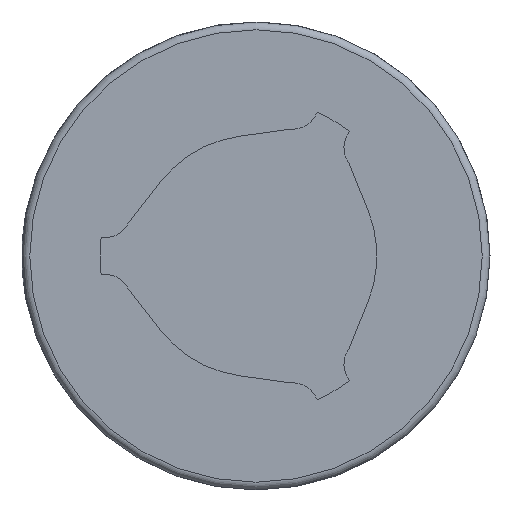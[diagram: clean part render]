
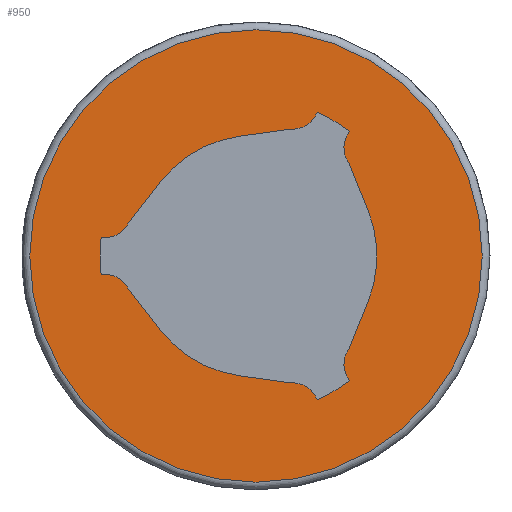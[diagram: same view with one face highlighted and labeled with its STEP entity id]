
A CAD part, left-side view. The second image highlights one B-rep face of the part: STEP entity #950.
In plain terms, the highlighted planar face has unit normal (-1, 0, 0).
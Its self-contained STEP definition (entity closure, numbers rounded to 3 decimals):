
#48=PLANE('',#1057);
#92=LINE('',#1550,#162);
#93=LINE('',#1559,#163);
#94=LINE('',#1563,#164);
#95=LINE('',#1571,#165);
#96=LINE('',#1575,#166);
#97=LINE('',#1583,#167);
#162=VECTOR('',#1255,1000.);
#163=VECTOR('',#1262,1000.);
#164=VECTOR('',#1265,1000.);
#165=VECTOR('',#1272,1000.);
#166=VECTOR('',#1275,1000.);
#167=VECTOR('',#1282,1000.);
#310=ORIENTED_EDGE('',*,*,#528,.F.);
#311=ORIENTED_EDGE('',*,*,#529,.T.);
#312=ORIENTED_EDGE('',*,*,#530,.F.);
#313=ORIENTED_EDGE('',*,*,#531,.T.);
#314=ORIENTED_EDGE('',*,*,#532,.F.);
#315=ORIENTED_EDGE('',*,*,#533,.T.);
#316=ORIENTED_EDGE('',*,*,#534,.T.);
#317=ORIENTED_EDGE('',*,*,#535,.T.);
#318=ORIENTED_EDGE('',*,*,#536,.F.);
#319=ORIENTED_EDGE('',*,*,#537,.T.);
#320=ORIENTED_EDGE('',*,*,#538,.F.);
#321=ORIENTED_EDGE('',*,*,#539,.T.);
#322=ORIENTED_EDGE('',*,*,#540,.T.);
#323=ORIENTED_EDGE('',*,*,#541,.T.);
#324=ORIENTED_EDGE('',*,*,#542,.F.);
#325=ORIENTED_EDGE('',*,*,#543,.T.);
#326=ORIENTED_EDGE('',*,*,#544,.F.);
#327=ORIENTED_EDGE('',*,*,#545,.T.);
#328=ORIENTED_EDGE('',*,*,#546,.T.);
#528=EDGE_CURVE('',#646,#646,#728,.T.);
#529=EDGE_CURVE('',#647,#648,#92,.T.);
#530=EDGE_CURVE('',#649,#648,#729,.T.);
#531=EDGE_CURVE('',#649,#650,#730,.T.);
#532=EDGE_CURVE('',#651,#650,#731,.T.);
#533=EDGE_CURVE('',#651,#652,#93,.T.);
#534=EDGE_CURVE('',#652,#653,#732,.T.);
#535=EDGE_CURVE('',#653,#654,#94,.T.);
#536=EDGE_CURVE('',#655,#654,#733,.T.);
#537=EDGE_CURVE('',#655,#656,#734,.T.);
#538=EDGE_CURVE('',#657,#656,#735,.T.);
#539=EDGE_CURVE('',#657,#658,#95,.T.);
#540=EDGE_CURVE('',#658,#659,#736,.T.);
#541=EDGE_CURVE('',#659,#660,#96,.T.);
#542=EDGE_CURVE('',#661,#660,#737,.T.);
#543=EDGE_CURVE('',#661,#662,#738,.T.);
#544=EDGE_CURVE('',#663,#662,#739,.T.);
#545=EDGE_CURVE('',#663,#664,#97,.T.);
#546=EDGE_CURVE('',#664,#647,#740,.T.);
#646=VERTEX_POINT('',#1549);
#647=VERTEX_POINT('',#1551);
#648=VERTEX_POINT('',#1552);
#649=VERTEX_POINT('',#1554);
#650=VERTEX_POINT('',#1556);
#651=VERTEX_POINT('',#1558);
#652=VERTEX_POINT('',#1560);
#653=VERTEX_POINT('',#1562);
#654=VERTEX_POINT('',#1564);
#655=VERTEX_POINT('',#1566);
#656=VERTEX_POINT('',#1568);
#657=VERTEX_POINT('',#1570);
#658=VERTEX_POINT('',#1572);
#659=VERTEX_POINT('',#1574);
#660=VERTEX_POINT('',#1576);
#661=VERTEX_POINT('',#1578);
#662=VERTEX_POINT('',#1580);
#663=VERTEX_POINT('',#1582);
#664=VERTEX_POINT('',#1584);
#728=CIRCLE('',#1058,43.5);
#729=CIRCLE('',#1059,4.95);
#730=CIRCLE('',#1060,30.);
#731=CIRCLE('',#1061,4.95);
#732=CIRCLE('',#1062,23.25);
#733=CIRCLE('',#1063,4.95);
#734=CIRCLE('',#1064,30.);
#735=CIRCLE('',#1065,4.95);
#736=CIRCLE('',#1066,23.25);
#737=CIRCLE('',#1067,4.95);
#738=CIRCLE('',#1068,30.);
#739=CIRCLE('',#1069,4.95);
#740=CIRCLE('',#1070,23.25);
#783=EDGE_LOOP('',(#310));
#784=EDGE_LOOP('',(#311,#312,#313,#314,#315,#316,#317,#318,#319,#320,#321,
#322,#323,#324,#325,#326,#327,#328));
#851=FACE_BOUND('',#783,.T.);
#852=FACE_BOUND('',#784,.T.);
#950=ADVANCED_FACE('',(#851,#852),#48,.F.);
#1057=AXIS2_PLACEMENT_3D('',#1547,#1251,#1252);
#1058=AXIS2_PLACEMENT_3D('',#1548,#1253,#1254);
#1059=AXIS2_PLACEMENT_3D('',#1553,#1256,#1257);
#1060=AXIS2_PLACEMENT_3D('',#1555,#1258,#1259);
#1061=AXIS2_PLACEMENT_3D('',#1557,#1260,#1261);
#1062=AXIS2_PLACEMENT_3D('',#1561,#1263,#1264);
#1063=AXIS2_PLACEMENT_3D('',#1565,#1266,#1267);
#1064=AXIS2_PLACEMENT_3D('',#1567,#1268,#1269);
#1065=AXIS2_PLACEMENT_3D('',#1569,#1270,#1271);
#1066=AXIS2_PLACEMENT_3D('',#1573,#1273,#1274);
#1067=AXIS2_PLACEMENT_3D('',#1577,#1276,#1277);
#1068=AXIS2_PLACEMENT_3D('',#1579,#1278,#1279);
#1069=AXIS2_PLACEMENT_3D('',#1581,#1280,#1281);
#1070=AXIS2_PLACEMENT_3D('',#1585,#1283,#1284);
#1251=DIRECTION('',(1.,0.,0.));
#1252=DIRECTION('',(0.,0.,-1.));
#1253=DIRECTION('',(1.,0.,0.));
#1254=DIRECTION('',(0.,0.,-1.));
#1255=DIRECTION('',(0.,-0.99,0.139));
#1256=DIRECTION('',(1.,0.,0.));
#1257=DIRECTION('',(0.,0.,-1.));
#1258=DIRECTION('',(1.,0.,0.));
#1259=DIRECTION('',(0.,0.,-1.));
#1260=DIRECTION('',(1.,0.,0.));
#1261=DIRECTION('',(0.,0.,-1.));
#1262=DIRECTION('',(0.,-0.375,-0.927));
#1263=DIRECTION('',(1.,0.,0.));
#1264=DIRECTION('',(0.,0.,-1.));
#1265=DIRECTION('',(0.,0.375,-0.927));
#1266=DIRECTION('',(1.,0.,0.));
#1267=DIRECTION('',(0.,0.,-1.));
#1268=DIRECTION('',(1.,0.,0.));
#1269=DIRECTION('',(0.,0.,-1.));
#1270=DIRECTION('',(1.,0.,0.));
#1271=DIRECTION('',(0.,0.,-1.));
#1272=DIRECTION('',(0.,0.99,0.139));
#1273=DIRECTION('',(1.,0.,0.));
#1274=DIRECTION('',(0.,0.,-1.));
#1275=DIRECTION('',(0.,0.616,0.788));
#1276=DIRECTION('',(1.,0.,0.));
#1277=DIRECTION('',(0.,0.,-1.));
#1278=DIRECTION('',(1.,0.,0.));
#1279=DIRECTION('',(0.,0.,-1.));
#1280=DIRECTION('',(1.,0.,0.));
#1281=DIRECTION('',(0.,0.,-1.));
#1282=DIRECTION('',(0.,-0.616,0.788));
#1283=DIRECTION('',(1.,0.,0.));
#1284=DIRECTION('',(0.,0.,-1.));
#1547=CARTESIAN_POINT('',(0.,0.,0.));
#1548=CARTESIAN_POINT('',(0.,0.,0.));
#1549=CARTESIAN_POINT('',(0.,0.,-43.5));
#1550=CARTESIAN_POINT('',(0.,3.236,23.024));
#1551=CARTESIAN_POINT('',(0.,3.236,23.024));
#1552=CARTESIAN_POINT('',(0.,-6.678,24.417));
#1553=CARTESIAN_POINT('',(0.,-7.116,29.348));
#1554=CARTESIAN_POINT('',(0.,-11.748,27.604));
#1555=CARTESIAN_POINT('',(0.,0.,0.));
#1556=CARTESIAN_POINT('',(0.,-18.032,23.976));
#1557=CARTESIAN_POINT('',(0.,-21.858,20.836));
#1558=CARTESIAN_POINT('',(0.,-17.807,17.992));
#1559=CARTESIAN_POINT('',(0.,-17.807,17.992));
#1560=CARTESIAN_POINT('',(0.,-21.557,8.71));
#1561=CARTESIAN_POINT('',(0.,0.,0.));
#1562=CARTESIAN_POINT('',(0.,-21.557,-8.71));
#1563=CARTESIAN_POINT('',(0.,-21.557,-8.71));
#1564=CARTESIAN_POINT('',(0.,-17.807,-17.992));
#1565=CARTESIAN_POINT('',(0.,-21.858,-20.836));
#1566=CARTESIAN_POINT('',(0.,-18.032,-23.976));
#1567=CARTESIAN_POINT('',(0.,0.,0.));
#1568=CARTESIAN_POINT('',(0.,-11.748,-27.604));
#1569=CARTESIAN_POINT('',(0.,-7.116,-29.348));
#1570=CARTESIAN_POINT('',(0.,-6.678,-24.417));
#1571=CARTESIAN_POINT('',(0.,-6.678,-24.417));
#1572=CARTESIAN_POINT('',(0.,3.236,-23.024));
#1573=CARTESIAN_POINT('',(0.,0.,0.));
#1574=CARTESIAN_POINT('',(0.,18.321,-14.314));
#1575=CARTESIAN_POINT('',(0.,18.321,-14.314));
#1576=CARTESIAN_POINT('',(0.,24.485,-6.425));
#1577=CARTESIAN_POINT('',(0.,28.974,-8.512));
#1578=CARTESIAN_POINT('',(0.,29.78,-3.628));
#1579=CARTESIAN_POINT('',(0.,0.,0.));
#1580=CARTESIAN_POINT('',(0.,29.78,3.628));
#1581=CARTESIAN_POINT('',(0.,28.974,8.512));
#1582=CARTESIAN_POINT('',(0.,24.485,6.425));
#1583=CARTESIAN_POINT('',(0.,24.485,6.425));
#1584=CARTESIAN_POINT('',(0.,18.321,14.314));
#1585=CARTESIAN_POINT('',(0.,0.,0.));
